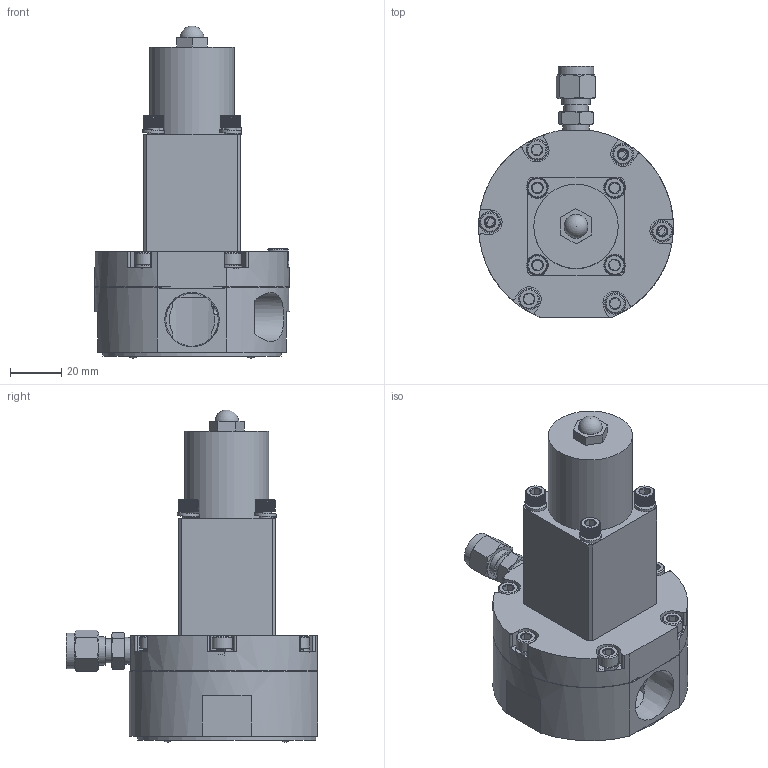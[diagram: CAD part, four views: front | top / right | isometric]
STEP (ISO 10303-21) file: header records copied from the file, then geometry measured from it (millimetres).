
FILE_DESCRIPTION (( 'STEP AP214' ), '1' );
FILE_NAME ('5GRD01E.STEP', '2022-12-01T20:50:14', ( '' ), ( '' ), 'SwSTEP 2.0', 'SolidWorks 2022', '' );
FILE_SCHEMA (( 'AUTOMOTIVE_DESIGN' ));
Length unit declared in the file: inch
Products named in the file (1): 5GRD01E
Bounding box: 76.2 x 98.31 x 129.88 mm (x, y, z)
Surface area: 51539 mm2 (no closed solid volume)
Topology: 0 solids, 32 shells, 1053 faces, 3353 edges, 2129 vertices
Faces by surface type: plane 734, cone 131, cylinder 130, bspline 53, sphere 5
Full cylindrical faces by diameter (mm): 3.048 x4, 3.175 x1, 4.826 x81, 6.35 x1, 7.937 x3, 7.938 x3, 9.305 x1, 9.42 x1, 11.11 x1, 13.9 x1, 33.024 x1, 69.799 x1
Entity records: 58619 total; most frequent: CARTESIAN_POINT 21922, ORIENTED_EDGE 4899, DIRECTION 4179, EDGE_CURVE 3056, VERTEX_POINT 1957, AXIS2_PLACEMENT_3D 1435, LINE 1309, VECTOR 1309
